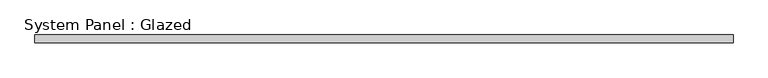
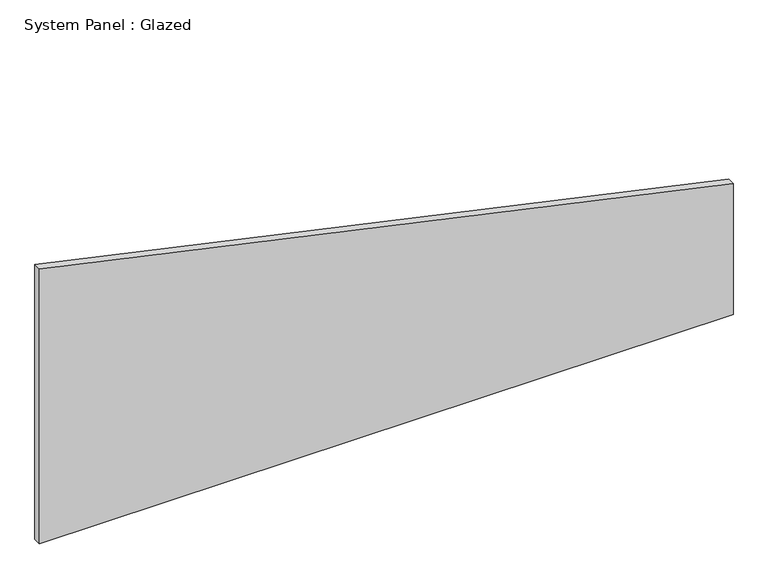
"""IFC4 building model written with IfcOpenShell, lengths in millimetres: plate geometry, System Panel : Glazed."""

from ifc_helpers import new_model, si_unit, frame, origin, place, context, project, spatial, polyline, outline, extrude, source, transform, mapped, element, save


def system_panel_glazed_785aafc2(model_context):
    return source(origin(), model_context, "Body", "SweptSolid", [
        extrude(outline(polyline([(0.0, -1107.8059638), (0.0, 1107.8059638), (441.8165888, 1107.8059638), (928.9658535, -1107.8059638), (0.0, -1107.8059638)])), frame((0.0, -12.7, 0.0), z_axis=(0.0, 1.0, 0.0), x_axis=(0.0, 0.0, 1.0)), (0.0, 0.0, 1.0), 25.4),
    ])


if __name__ == "__main__":
    model = new_model("IFC4")
    model_context = context("Model", 3, world=origin())
    ifc_project = project(units=[si_unit("LENGTHUNIT", "METRE", prefix="MILLI")], contexts=[model_context])
    site = spatial("IfcSite", under=ifc_project)
    building = spatial("IfcBuilding", under=site)
    placement = place(None, origin())
    system_panel_glazed_shape = system_panel_glazed_785aafc2(model_context)
    element("IfcPlate", 1, ObjectType="System Panel : Glazed", at=placement, inside=building, context=model_context, shape_type="MappedRepresentation", body=[
        mapped(system_panel_glazed_shape, transform((0.0, 0.0, 0.0), x_axis=(1.0, 0.0, 0.0), y_axis=(0.0, 1.0, 0.0), z_axis=(0.0, 0.0, 1.0))),
    ])
    save(model, "model.ifc")
